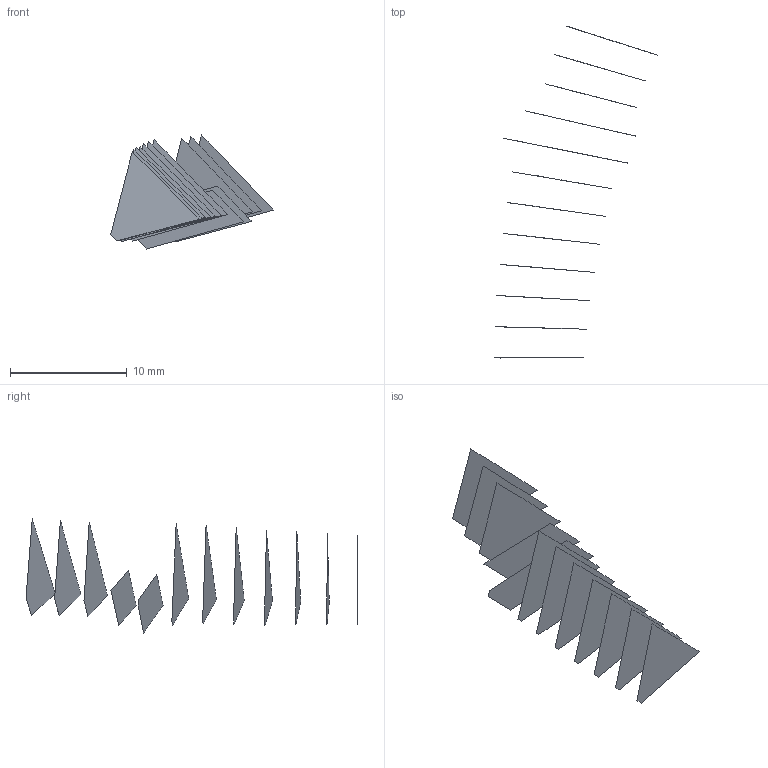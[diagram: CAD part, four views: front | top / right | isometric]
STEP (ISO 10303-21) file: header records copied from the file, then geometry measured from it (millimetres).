
FILE_DESCRIPTION(('FreeCAD Model'),'2;1');
FILE_NAME('Open CASCADE Shape Model','2022-05-21T09:28:00',('FreeCAD'),( 'FreeCAD'),'Open CASCADE STEP processor 7.5','FreeCAD','Unknown');
FILE_SCHEMA(('AUTOMOTIVE_DESIGN { 1 0 10303 214 1 1 1 1 }'));
Length unit declared in the file: millimetre
Products named in the file (13): Open CASCADE STEP translator 7.5 1; Open CASCADE STEP translator 7.5 1.1; Open CASCADE STEP translator 7.5 1.2; Open CASCADE STEP translator 7.5 1.3; Open CASCADE STEP translator 7.5 1.4; Open CASCADE STEP translator 7.5 1.5; Open CASCADE STEP translator 7.5 1.6; Open CASCADE STEP translator 7.5 1.7; Open CASCADE STEP translator 7.5 1.8; Open CASCADE STEP translator 7.5 1.9; Open CASCADE STEP translator 7.5 1.10; Open CASCADE STEP translator 7.5 1.11; Open CASCADE STEP translator 7.5 1.12
Assembly tree (12 placements, depth 2):
  Open CASCADE STEP translator 7.5 1
    Open CASCADE STEP translator 7.5 1.1
    Open CASCADE STEP translator 7.5 1.2
    Open CASCADE STEP translator 7.5 1.3
    Open CASCADE STEP translator 7.5 1.4
    Open CASCADE STEP translator 7.5 1.5
    Open CASCADE STEP translator 7.5 1.6
    Open CASCADE STEP translator 7.5 1.7
    Open CASCADE STEP translator 7.5 1.8
    Open CASCADE STEP translator 7.5 1.9
    Open CASCADE STEP translator 7.5 1.10
    Open CASCADE STEP translator 7.5 1.11
    Open CASCADE STEP translator 7.5 1.12
Bounding box: 13.91 x 28.41 x 9.76 mm (x, y, z)
Surface area: 375.9 mm2 (no closed solid volume)
Topology: 0 solids, 12 shells, 12 faces, 190 edges, 190 vertices
Faces by surface type: bspline 12
Entity records: 2822 total; most frequent: CARTESIAN_POINT 1011, B_SPLINE_CURVE_WITH_KNOTS 380, ORIENTED_EDGE 190, EDGE_CURVE 190, VERTEX_POINT 190, SURFACE_CURVE 190, PCURVE 190, DEFINITIONAL_REPRESENTATION 190
